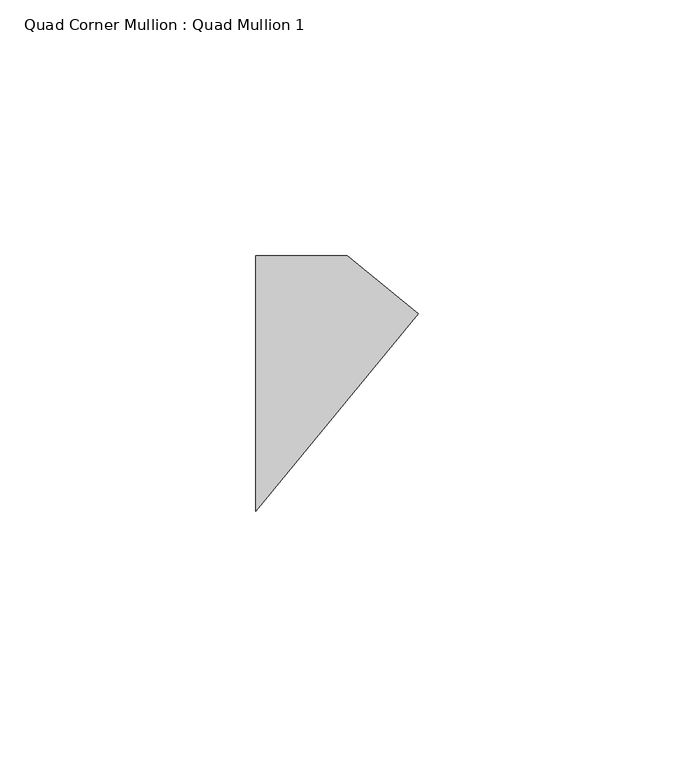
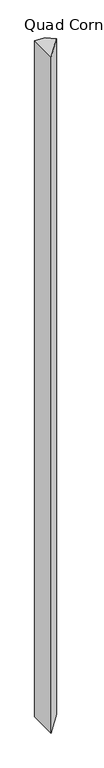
"""IFC4 building model written with IfcOpenShell, lengths in millimetres: member geometry, Quad Corner Mullion : Quad Mullion 1."""

from ifc_helpers import new_model, si_unit, frame, origin, place, context, project, spatial, polyline, outline, extrude, source, transform, mapped, element, save


def quad_corner_mullion_quad_mullion_1_dba682c4(model_context):
    return source(origin(), model_context, "Body", "SweptSolid", [
        extrude(outline(polyline([(22.8068923, 13.6086231), (-8.963758, -25.0), (-8.963758, 25.0), (8.963758, 25.0), (22.8068923, 13.6086231)])), frame((0.0, 0.0, -1250.0), z_axis=(0.0, 0.0, 1.0), x_axis=(1.0, 0.0, 0.0)), (0.0, 0.0, 1.0), 1250.0),
    ])


if __name__ == "__main__":
    model = new_model("IFC4")
    model_context = context("Model", 3, world=origin())
    ifc_project = project(units=[si_unit("LENGTHUNIT", "METRE", prefix="MILLI")], contexts=[model_context])
    site = spatial("IfcSite", under=ifc_project)
    building = spatial("IfcBuilding", under=site)
    placement = place(None, origin())
    quad_corner_mullion_quad_mullion_1_shape = quad_corner_mullion_quad_mullion_1_dba682c4(model_context)
    element("IfcMember", 1, ObjectType="Quad Corner Mullion : Quad Mullion 1", at=placement, inside=building, context=model_context, shape_type="MappedRepresentation", body=[
        mapped(quad_corner_mullion_quad_mullion_1_shape, transform((0.0, 0.0, 0.0), x_axis=(1.0, 0.0, 0.0), y_axis=(0.0, 1.0, 0.0), z_axis=(0.0, 0.0, 1.0))),
    ])
    save(model, "model.ifc")
